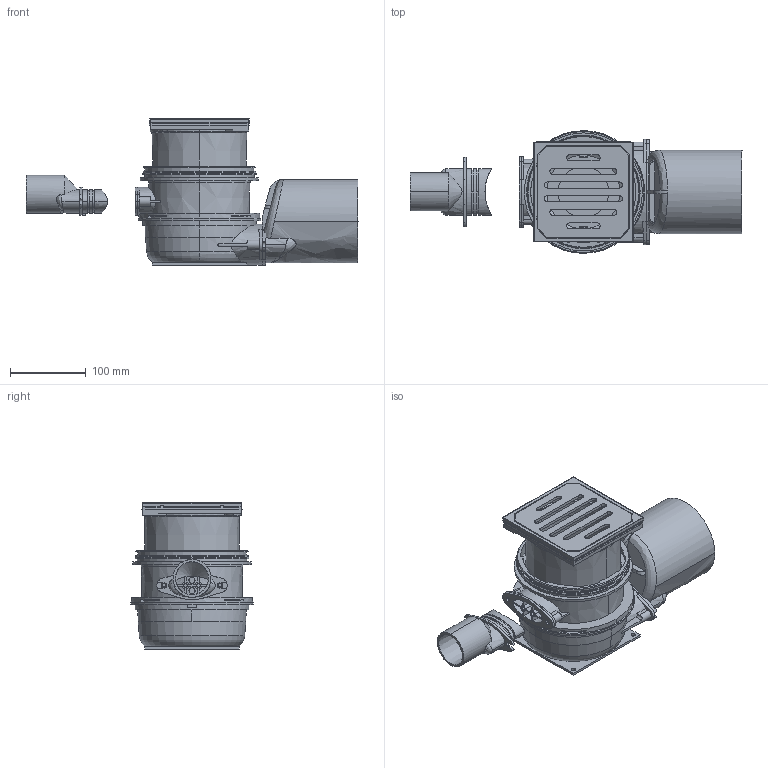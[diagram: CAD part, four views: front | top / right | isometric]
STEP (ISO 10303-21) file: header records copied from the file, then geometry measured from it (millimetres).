
FILE_DESCRIPTION(/* description */ (''),/* implementation_level */ '2;1');
FILE_NAME(/* name */ 'G:\WM_GmbH\Planerdaten\Work\EXPORT\Fertig zum Export\Bodenabl. u. Div.\stp\388021.stp',/* time_stamp */ '2017-06-27T10:26:53+02:00',/* author */ ('seihe2'),/* organization */ (''),/* preprocessor_version */ 'ST-DEVELOPER v15.2',/* originating_system */ 'Autodesk Inventor 2014',/* authorisation */ '');
FILE_SCHEMA (('AUTOMOTIVE_DESIGN { 1 0 10303 214 3 1 1 }'));
Length unit declared in the file: millimetre
Products named in the file (1): 388021
Bounding box: 438.5 x 162 x 193 mm (x, y, z)
Volume: 881774.5 mm3; surface area: 544925.2 mm2
Topology: 9 solids, 9 shells, 1153 faces, 3187 edges, 2075 vertices
Faces by surface type: plane 579, bspline 211, cylinder 204, cone 124, torus 30, sphere 5
Entity records: 48857 total; most frequent: CARTESIAN_POINT 19624, ORIENTED_EDGE 6344, DIRECTION 5139, EDGE_CURVE 3172, VERTEX_POINT 2072, LINE 1737, VECTOR 1737, AXIS2_PLACEMENT_3D 1701
